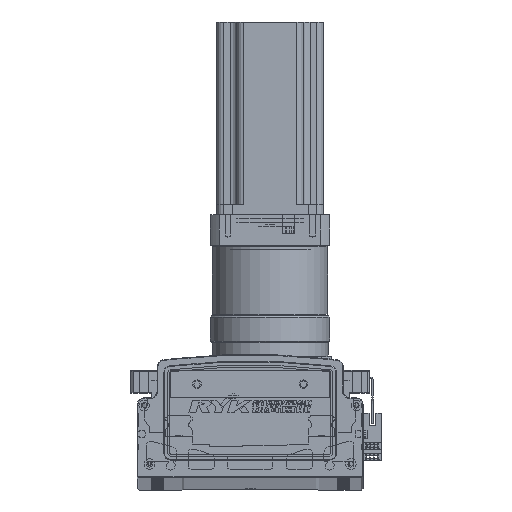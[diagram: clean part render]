
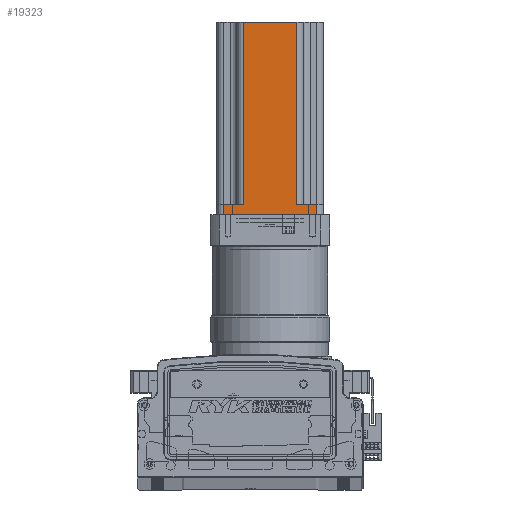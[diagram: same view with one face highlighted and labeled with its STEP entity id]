
A CAD part, top view. The second image highlights one B-rep face of the part: STEP entity #19323.
In plain terms, the highlighted planar face has unit normal (0, 0, 1) as drawn and (0, -1, 0) by its records, which use the part's own axes.
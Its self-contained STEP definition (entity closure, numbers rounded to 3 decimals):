
#6590 = ORIENTED_EDGE ( 'NONE', *, *, #105792, .T. ) ;
#6592 = ORIENTED_EDGE ( 'NONE', *, *, #105541, .F. ) ;
#6618 = ORIENTED_EDGE ( 'NONE', *, *, #105764, .T. ) ;
#6621 = ORIENTED_EDGE ( 'NONE', *, *, #105842, .T. ) ;
#6632 = ORIENTED_EDGE ( 'NONE', *, *, #105786, .F. ) ;
#6638 = ORIENTED_EDGE ( 'NONE', *, *, #105702, .T. ) ;
#6642 = ORIENTED_EDGE ( 'NONE', *, *, #105863, .F. ) ;
#6644 = ORIENTED_EDGE ( 'NONE', *, *, #105752, .T. ) ;
#13022 = EDGE_LOOP ( 'NONE', ( #6642, #6644, #6638, #6590, #6632, #6621, #6592, #6618 ) ) ;
#14189 = VERTEX_POINT ( 'NONE', #100526 ) ;
#14229 = VERTEX_POINT ( 'NONE', #100672 ) ;
#14268 = VERTEX_POINT ( 'NONE', #100913 ) ;
#14274 = VERTEX_POINT ( 'NONE', #100916 ) ;
#14283 = VERTEX_POINT ( 'NONE', #100890 ) ;
#14313 = VERTEX_POINT ( 'NONE', #100951 ) ;
#14375 = VERTEX_POINT ( 'NONE', #101050 ) ;
#14399 = VERTEX_POINT ( 'NONE', #101093 ) ;
#19323 = ADVANCED_FACE ( 'NONE', ( #108470 ), #126732, .F. ) ;
#91741 = AXIS2_PLACEMENT_3D ( 'NONE', #126716, #126876, #126842 ) ;
#100526 = CARTESIAN_POINT ( 'NONE',  ( -67.587, -40.37, 145. ) ) ;
#100672 = CARTESIAN_POINT ( 'NONE',  ( -82.587, -40.37, 8. ) ) ;
#100890 = CARTESIAN_POINT ( 'NONE',  ( -12.587, -40.37, 0. ) ) ;
#100913 = CARTESIAN_POINT ( 'NONE',  ( -67.587, -40.37, 8. ) ) ;
#100916 = CARTESIAN_POINT ( 'NONE',  ( -82.587, -40.37, 0. ) ) ;
#100951 = CARTESIAN_POINT ( 'NONE',  ( -12.587, -40.37, 8. ) ) ;
#101050 = CARTESIAN_POINT ( 'NONE',  ( -27.587, -40.37, 8. ) ) ;
#101093 = CARTESIAN_POINT ( 'NONE',  ( -27.587, -40.37, 145. ) ) ;
#105541 = EDGE_CURVE ( 'NONE', #14189, #14399, #139820, .T. ) ;
#105702 = EDGE_CURVE ( 'NONE', #14274, #14283, #139075, .T. ) ;
#105752 = EDGE_CURVE ( 'NONE', #14229, #14274, #139892, .T. ) ;
#105764 = EDGE_CURVE ( 'NONE', #14189, #14268, #139909, .T. ) ;
#105786 = EDGE_CURVE ( 'NONE', #14375, #14313, #139918, .T. ) ;
#105792 = EDGE_CURVE ( 'NONE', #14283, #14313, #139912, .T. ) ;
#105842 = EDGE_CURVE ( 'NONE', #14375, #14399, #139916, .T. ) ;
#105863 = EDGE_CURVE ( 'NONE', #14229, #14268, #139968, .T. ) ;
#108470 = FACE_OUTER_BOUND ( 'NONE', #13022, .T. ) ;
#118660 = CARTESIAN_POINT ( 'NONE',  ( -87.587, -40.37, 8. ) ) ;
#118724 = DIRECTION ( 'NONE',  ( 1., 0., 0. ) ) ;
#118725 = CARTESIAN_POINT ( 'NONE',  ( -87.587, -40.37, 145. ) ) ;
#119022 = DIRECTION ( 'NONE',  ( 1., 0., 0. ) ) ;
#119051 = DIRECTION ( 'NONE',  ( 1., 0., 0. ) ) ;
#119082 = CARTESIAN_POINT ( 'NONE',  ( -87.587, -40.37, 0. ) ) ;
#119141 = CARTESIAN_POINT ( 'NONE',  ( -12.587, -40.37, 145. ) ) ;
#119166 = DIRECTION ( 'NONE',  ( 0., 0., 1. ) ) ;
#119191 = CARTESIAN_POINT ( 'NONE',  ( -82.587, -40.37, 145. ) ) ;
#119208 = CARTESIAN_POINT ( 'NONE',  ( -67.587, -40.37, 145. ) ) ;
#119220 = DIRECTION ( 'NONE',  ( 0., 0., -1. ) ) ;
#119224 = DIRECTION ( 'NONE',  ( 0., 0., -1. ) ) ;
#119247 = DIRECTION ( 'NONE',  ( 1., 0., 0. ) ) ;
#119269 = CARTESIAN_POINT ( 'NONE',  ( -7.587, -40.37, 8. ) ) ;
#119317 = CARTESIAN_POINT ( 'NONE',  ( -27.587, -40.37, 145. ) ) ;
#119339 = DIRECTION ( 'NONE',  ( 0., 0., 1. ) ) ;
#126716 = CARTESIAN_POINT ( 'NONE',  ( -87.587, -40.37, 145. ) ) ;
#126732 = PLANE ( 'NONE',  #91741 ) ;
#126842 = DIRECTION ( 'NONE',  ( -1., 0., 0. ) ) ;
#126876 = DIRECTION ( 'NONE',  ( 0., 1., 0. ) ) ;
#139075 = LINE ( 'NONE', #119082, #139117 ) ;
#139117 = VECTOR ( 'NONE', #119051, 1000. ) ;
#139820 = LINE ( 'NONE', #118725, #139822 ) ;
#139822 = VECTOR ( 'NONE', #118724, 1000. ) ;
#139889 = VECTOR ( 'NONE', #119339, 1000. ) ;
#139892 = LINE ( 'NONE', #119191, #139925 ) ;
#139909 = LINE ( 'NONE', #119208, #139923 ) ;
#139912 = LINE ( 'NONE', #119141, #139942 ) ;
#139916 = LINE ( 'NONE', #119317, #139889 ) ;
#139918 = LINE ( 'NONE', #119269, #139934 ) ;
#139923 = VECTOR ( 'NONE', #119224, 1000. ) ;
#139925 = VECTOR ( 'NONE', #119220, 1000. ) ;
#139934 = VECTOR ( 'NONE', #119247, 1000. ) ;
#139942 = VECTOR ( 'NONE', #119166, 1000. ) ;
#139968 = LINE ( 'NONE', #118660, #140000 ) ;
#140000 = VECTOR ( 'NONE', #119022, 1000. ) ;
